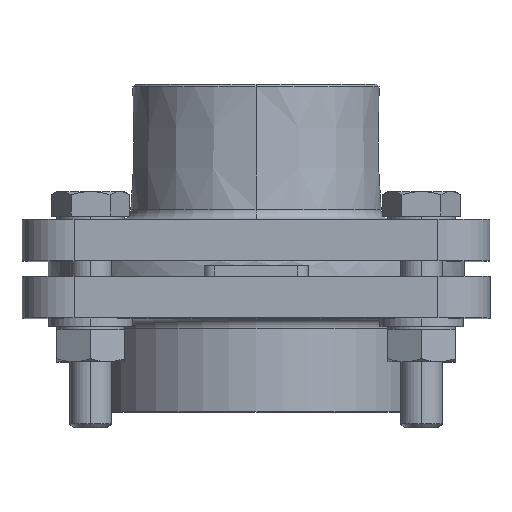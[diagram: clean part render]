
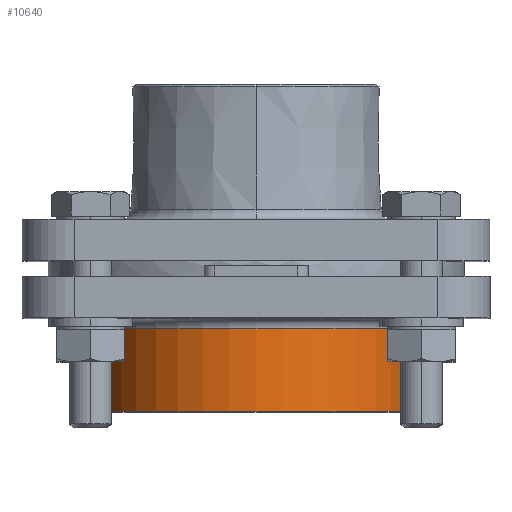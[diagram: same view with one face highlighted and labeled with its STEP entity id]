
A CAD part, top view. The second image highlights one B-rep face of the part: STEP entity #10640.
In plain terms, the highlighted cylindrical face has radius 30 mm (diameter 60 mm), a partial arc.
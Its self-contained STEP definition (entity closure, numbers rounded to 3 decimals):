
#1872 = AXIS2_PLACEMENT_3D ( 'NONE', #8432, #8433, #8434 ) ;
#2290 = AXIS2_PLACEMENT_3D ( 'NONE', #11285, #11286, #11294 ) ;
#3144 = LINE ( 'NONE', #5249, #3148 ) ;
#3146 = LINE ( 'NONE', #5253, #3151 ) ;
#3148 = VECTOR ( 'NONE', #5246, 1000. ) ;
#3151 = VECTOR ( 'NONE', #5248, 1000. ) ;
#3153 = CIRCLE ( 'NONE', #5645, 30. ) ;
#4661 = EDGE_CURVE ( 'NONE', #10928, #10922, #3144, .T. ) ;
#4663 = EDGE_CURVE ( 'NONE', #10927, #10923, #3146, .T. ) ;
#4667 = EDGE_CURVE ( 'NONE', #10922, #10923, #3153, .T. ) ;
#4835 = ORIENTED_EDGE ( 'NONE', *, *, #4661, .F. ) ;
#4836 = ORIENTED_EDGE ( 'NONE', *, *, #6626, .T. ) ;
#4837 = ORIENTED_EDGE ( 'NONE', *, *, #4663, .T. ) ;
#4838 = ORIENTED_EDGE ( 'NONE', *, *, #4667, .F. ) ;
#5246 = DIRECTION ( 'NONE',  ( 0., 1., 0. ) ) ;
#5248 = DIRECTION ( 'NONE',  ( 0., 1., 0. ) ) ;
#5249 = CARTESIAN_POINT ( 'NONE',  ( -44.119, -14.734, 3.465 ) ) ;
#5253 = CARTESIAN_POINT ( 'NONE',  ( 15.881, -14.734, 3.465 ) ) ;
#5266 = CARTESIAN_POINT ( 'NONE',  ( -14.119, -24.133, 3.465 ) ) ;
#5267 = DIRECTION ( 'NONE',  ( 0., 1., 0. ) ) ;
#5268 = DIRECTION ( 'NONE',  ( 1., 0., 0. ) ) ;
#5645 = AXIS2_PLACEMENT_3D ( 'NONE', #5266, #5267, #5268 ) ;
#6626 = EDGE_CURVE ( 'NONE', #10928, #10927, #9643, .T. ) ;
#7844 = FACE_OUTER_BOUND ( 'NONE', #11021, .T. ) ;
#7852 = CYLINDRICAL_SURFACE ( 'NONE', #2290, 30. ) ;
#8432 = CARTESIAN_POINT ( 'NONE',  ( -14.119, -40.133, 3.465 ) ) ;
#8433 = DIRECTION ( 'NONE',  ( 0., 1., 0. ) ) ;
#8434 = DIRECTION ( 'NONE',  ( 1., 0., 0. ) ) ;
#9643 = CIRCLE ( 'NONE', #1872, 30. ) ;
#10640 = ADVANCED_FACE ( 'NONE', ( #7844 ), #7852, .T. ) ;
#10922 = VERTEX_POINT ( 'NONE', #12143 ) ;
#10923 = VERTEX_POINT ( 'NONE', #12144 ) ;
#10927 = VERTEX_POINT ( 'NONE', #12148 ) ;
#10928 = VERTEX_POINT ( 'NONE', #12149 ) ;
#11021 = EDGE_LOOP ( 'NONE', ( #4835, #4836, #4837, #4838 ) ) ;
#11285 = CARTESIAN_POINT ( 'NONE',  ( -14.119, -14.734, 3.465 ) ) ;
#11286 = DIRECTION ( 'NONE',  ( 0., 1., 0. ) ) ;
#11294 = DIRECTION ( 'NONE',  ( 1., 0., 0. ) ) ;
#12143 = CARTESIAN_POINT ( 'NONE',  ( -44.119, -24.133, 3.465 ) ) ;
#12144 = CARTESIAN_POINT ( 'NONE',  ( 15.881, -24.133, 3.465 ) ) ;
#12148 = CARTESIAN_POINT ( 'NONE',  ( 15.881, -40.133, 3.465 ) ) ;
#12149 = CARTESIAN_POINT ( 'NONE',  ( -44.119, -40.133, 3.465 ) ) ;
